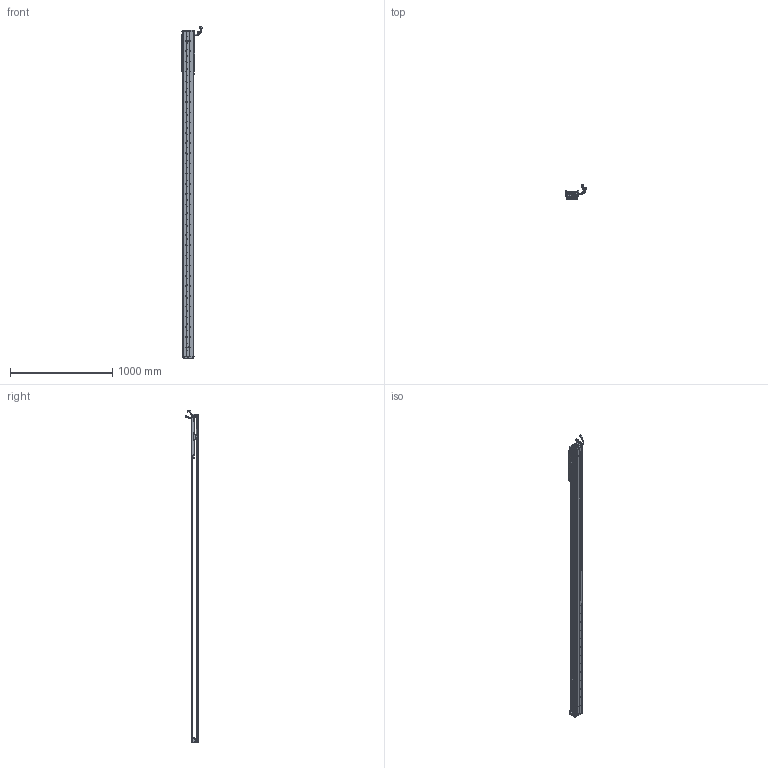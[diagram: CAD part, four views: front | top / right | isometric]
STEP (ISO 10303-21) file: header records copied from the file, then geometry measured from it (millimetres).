
FILE_DESCRIPTION (( 'STEP AP203' ), '1' );
FILE_NAME ('Z5-RY100D-1-L500-B-K.SLDASM_2750.step', '2021-05-17T03:35:30', ( '盈信电脑' ), ( '东莞市道滘镇水果街19号' ), 'SwSTEP 2.0', 'SolidWorks 2016', '' );
FILE_SCHEMA (( 'CONFIG_CONTROL_DESIGN' ));
Length unit declared in the file: millimetre
Products named in the file (36): SCALE; 140雄赽晤鎢ん堤盄; 覜茼ん672; Z5-RY100铝滑块（21款）; SEAL; 140蚥薯蝶輸; Z5-RY100D-500-倰第菁釱_2750; SCREW-M1.6-1; HOLDER0; Z-RY100D詩湍狟揤裔; 100-Z-臏賑輸盄裔(21遴); SCREW-M1.6-3; LABEL-Part-1; Z-RY100D覜茼んえ; SCREW-M1.6-2; SEAL-Part-1; Z-100詩湍傷裔啣; HARNESS; LABEL; Z-RY100D詩湍奻揤裔; Z5-RY100D-1-L500-B-K.SLDASM_2750; SCREW-M1.6; PSLH080_PSLF2; SCALE-Part-2; COVER-Part-1; SCREW-M1.7-1; COVER; HARNESS-Part-2; 榋妏寠巭燃_暯_M2_2; Z5-RY100-L500詩湍90mm遵_2750; SCREW-M1.7; PBU_SHEET; 080黍杅芛假蚾釱21遴; SCALE-Part-1; SHIELDPLATE; HARNESS-Part-1
Assembly tree (43 placements, depth 4):
  Z5-RY100D-1-L500-B-K.SLDASM_2750
    Z5-RY100D-500-倰第菁釱_2750
    Z5-RY100铝滑块（21款）
    PSLH080_PSLF2
      SCALE
        SCALE-Part-1
        SCALE-Part-2
      HARNESS
        HARNESS-Part-1
        HARNESS-Part-2
      LABEL
        LABEL-Part-1
      COVER
        COVER-Part-1
      SEAL
        SEAL-Part-1
      榋妏寠巭燃_暯_M2_2
      SHIELDPLATE
      SCREW-M1.7
      SCREW-M1.7-1
      PBU_SHEET
      SCREW-M1.6
      SCREW-M1.6-1
      SCREW-M1.6-2
      SCREW-M1.6-3
      HOLDER0
    080黍杅芛假蚾釱21遴
    Z-100詩湍傷裔啣  x2
    140蚥薯蝶輸  x2
    覜茼ん672  x3
    Z-RY100D覜茼んえ  x3
    100-Z-臏賑輸盄裔(21遴)
    140雄赽晤鎢ん堤盄
    Z5-RY100-L500詩湍90mm遵_2750
    Z-RY100D詩湍狟揤裔  x2
    Z-RY100D詩湍奻揤裔  x2
Bounding box: 205.79 x 136.11 x 3250.43 mm (x, y, z)
Volume: 6031285.3 mm3; surface area: 2350615 mm2
Topology: 38 solids, 38 shells, 3155 faces, 8695 edges, 5564 vertices
Faces by surface type: cylinder 1602, plane 1205, cone 226, torus 69, bspline 53
Entity records: 92853 total; most frequent: CARTESIAN_POINT 19395, DIRECTION 15053, ORIENTED_EDGE 14270, EDGE_CURVE 7135, AXIS2_PLACEMENT_3D 5694, VERTEX_POINT 4632, LINE 3665, VECTOR 3665
